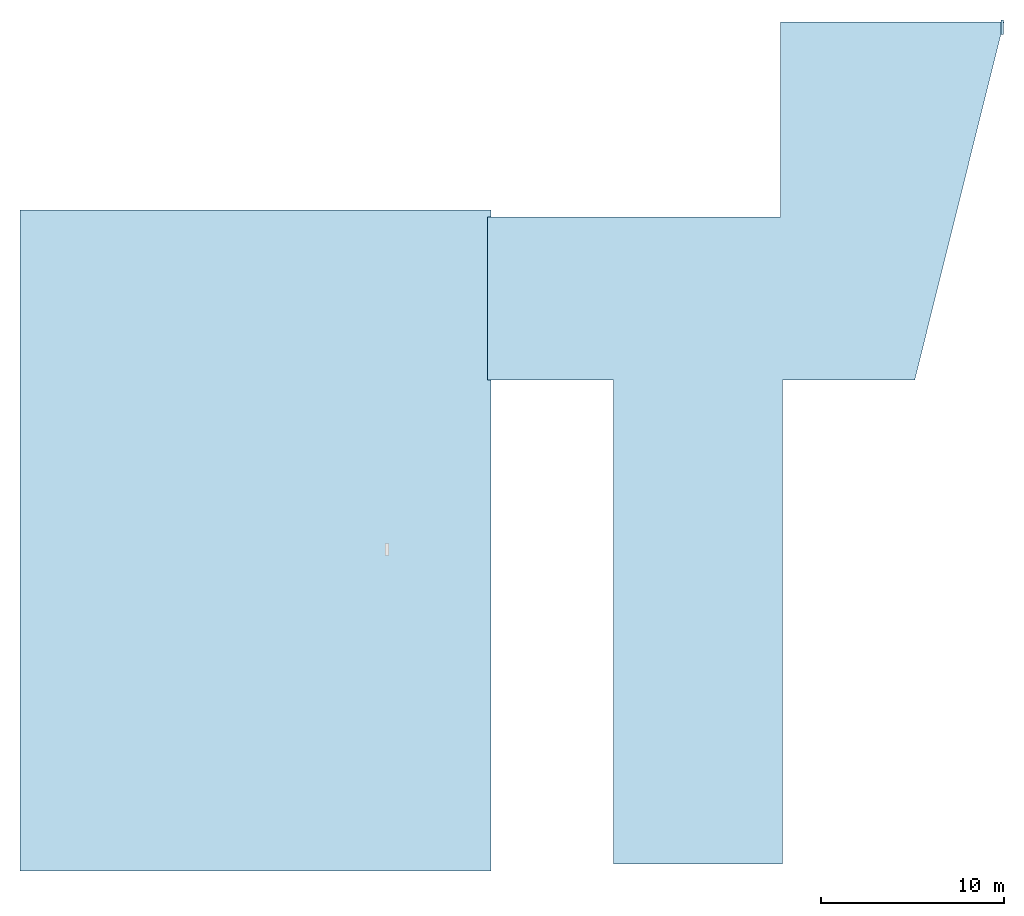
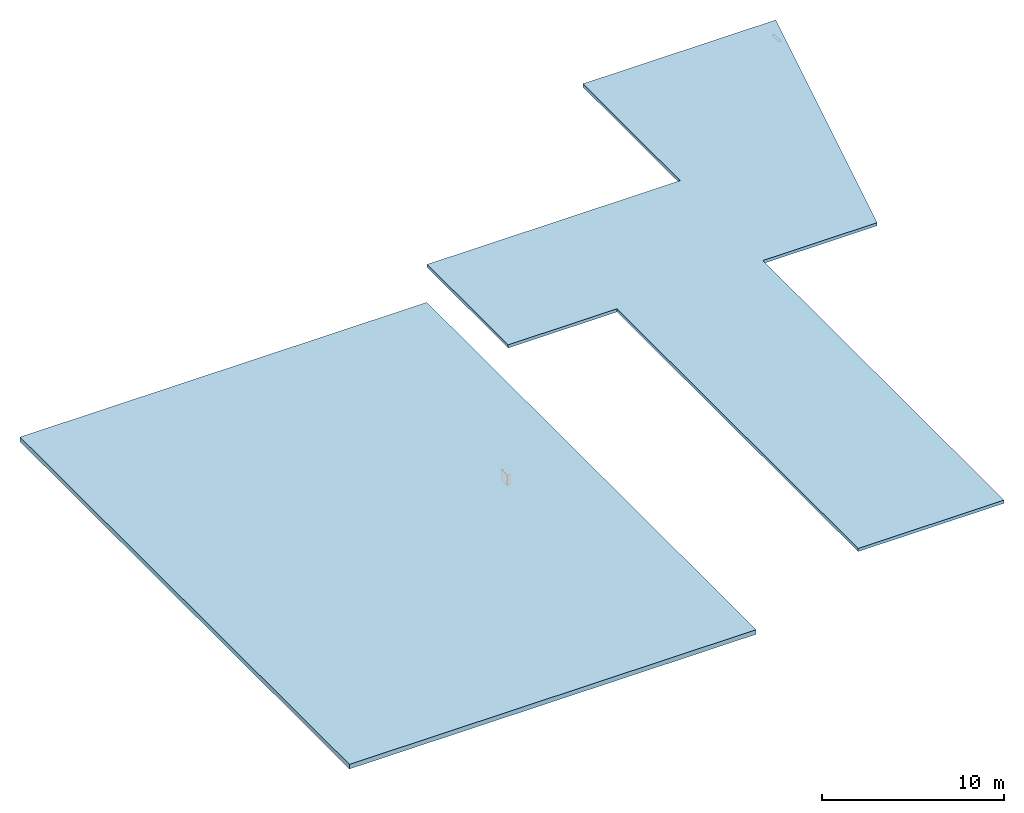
# One storey, part 1 of 2: 3 slabs.
"""IFC2X3 building model written with IfcOpenShell, lengths in millimetres."""

from ifc_helpers import new_model, entity, si_unit, converted_unit, derived_unit, money_unit, direction, frame, origin_with_axes, place, context, subcontext, project, spatial, polyline, outline, extrude, material, layer, layer_set, layer_usage, type_object, element, save


model = new_model("IFC2X3")

# Units and contexts
model_context = context("Model", 3, precision=0.01, world=origin_with_axes(), true_north=direction((0.0, 1.0)))
body_context = subcontext(model_context, "Body", "Model", "MODEL_VIEW")
ifc_project = project(units=[si_unit("LENGTHUNIT", "METRE", prefix="MILLI"), si_unit("AREAUNIT", "SQUARE_METRE"), si_unit("VOLUMEUNIT", "CUBIC_METRE"), converted_unit("PLANEANGLEUNIT", "DEGREE", entity("IfcPlaneAngleMeasure", 0.0174532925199), si_unit("PLANEANGLEUNIT", "RADIAN"), dimensions=[0, 0, 0, 0, 0, 0, 0]), money_unit("USD"), converted_unit("TIMEUNIT", "Year", entity("IfcTimeMeasure", 31556926.0), si_unit("TIMEUNIT", "SECOND"), dimensions=[0, 0, 1, 0, 0, 0, 0]), si_unit("MASSUNIT", "GRAM", prefix="KILO"), si_unit("THERMODYNAMICTEMPERATUREUNIT", "DEGREE_CELSIUS"), si_unit("LUMINOUSINTENSITYUNIT", "LUMEN"), si_unit("ENERGYUNIT", "JOULE", prefix="MEGA"), derived_unit("THERMALCONDUCTANCEUNIT", [(si_unit("POWERUNIT", "WATT"), 1), (si_unit("LENGTHUNIT", "METRE"), -1), (si_unit("THERMODYNAMICTEMPERATUREUNIT", "KELVIN"), -1)]), derived_unit("SPECIFICHEATCAPACITYUNIT", [(si_unit("ENERGYUNIT", "JOULE"), 1), (si_unit("MASSUNIT", "GRAM", prefix="KILO"), -1), (si_unit("THERMODYNAMICTEMPERATUREUNIT", "KELVIN"), -1)]), derived_unit("MASSDENSITYUNIT", [(si_unit("MASSUNIT", "GRAM", prefix="KILO"), 1), (si_unit("VOLUMEUNIT", "CUBIC_METRE"), -1)])], contexts=[model_context])

# Site, building, storey
site_placement = place(None, frame((9669.71692459, 4224.13032188, 0.0), z_axis=(0.0, 0.0, 1.0), x_axis=(1.0, 0.0, 0.0)))
site = spatial("IfcSite", under=ifc_project, at=site_placement, Name="Exteriér", CompositionType="ELEMENT")
building_placement = place(site_placement, origin_with_axes())
building = spatial("IfcBuilding", under=site, at=building_placement, Name="Budova", CompositionType="ELEMENT")
storey_placement = place(building_placement, frame((0.0, 0.0, -3100.0), z_axis=(0.0, 0.0, 1.0), x_axis=(1.0, 0.0, 0.0)))
storey = spatial("IfcBuildingStorey", under=building, at=storey_placement, Name="1.PP", CompositionType="ELEMENT", Elevation=-3100.0)

# Slabs
ifc_material_1 = material(Name="Zemina - původní")
ifc_layer_1 = layer(ifc_material_1, 1.0, ventilated="UNKNOWN")
ifc_layer_set_1 = layer_set([ifc_layer_1], Name="Zemina - původní 1")
ifc_layer_usage_1 = layer_usage(ifc_layer_set_1, "AXIS3", "NEGATIVE", 1.0)
slab_type_1 = type_object("IfcSlabType", Name="Zemina - původní 1", PredefinedType="FLOOR")
slab_1_placement = place(storey_placement, frame((41059.3744792, 41139.0534133, 1790.0), z_axis=(0.0, 0.0, 1.0), x_axis=(1.0, 0.0, 0.0)))
element("IfcSlab", 1, at=slab_1_placement, inside=storey, type_object=slab_type_1, material=ifc_layer_usage_1, Name="Pomocné výkopy", PredefinedType="FLOOR", context=body_context, shape_type="SweptSolid", body=[
    extrude(outline(polyline([(0.0, 0.0), (147.459062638, 0.0), (147.459062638, 800.0), (0.0, 800.0), (0.0, 0.0)])), origin_with_axes(), (0.0, 0.0, 1.0), 1.0),
])
ifc_material_2 = material(Name="2x SBS asfaltový pás, AL vložka (HI, radon)")
ifc_layer_2 = layer(ifc_material_2, 8.0, ventilated="UNKNOWN")
ifc_material_3 = material(Name="Železobeton C 20/25")
ifc_layer_3 = layer(ifc_material_3, 300.0, ventilated="UNKNOWN")
ifc_layer_set_2 = layer_set([ifc_layer_2, ifc_layer_3], Name="Základová deska garáž")
ifc_layer_usage_2 = layer_usage(ifc_layer_set_2, "AXIS3", "NEGATIVE", 308.0)
slab_type_2 = type_object("IfcSlabType", Name="Základová deska garáž 308", PredefinedType="FLOOR")
slab_2_placement = place(storey_placement, frame((-12645.2628681, -4660.94736196, -63.0), z_axis=(0.0, 0.0, 1.0), x_axis=(1.0, 0.0, 0.0)))
element("IfcSlab", 2, at=slab_2_placement, inside=storey, type_object=slab_type_2, material=ifc_layer_usage_2, Name="D055", PredefinedType="FLOOR", context=body_context, shape_type="SweptSolid", body=[
    extrude(outline(polyline([(0.0, 0.0), (25800.0002903, 2.52438070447e-08), (25800.0002903, 36199.9998612), (0.0, 36199.9998612), (0.0, 0.0)])), frame((0.0, 0.0, -308.0), z_axis=(0.0, 0.0, 1.0), x_axis=(1.0, 0.0, 0.0)), (0.0, 0.0, 1.0), 308.0),
])
ifc_layer_4 = layer(ifc_material_2, 8.0, ventilated="UNKNOWN")
ifc_layer_5 = layer(ifc_material_3, 200.0, ventilated="UNKNOWN")
ifc_layer_set_3 = layer_set([ifc_layer_4, ifc_layer_5], Name="Základová deska 1.NP")
ifc_layer_usage_3 = layer_usage(ifc_layer_set_3, "AXIS3", "NEGATIVE", 208.0)
slab_type_3 = type_object("IfcSlabType", Name="Základová deska 1.NP 208", PredefinedType="FLOOR")
slab_3_placement = place(storey_placement, frame((12954.737132, 31139.0524992, 2798.0), z_axis=(0.0, 0.0, 1.0), x_axis=(1.0, 0.0, 0.0)))
element("IfcSlab", 3, at=slab_3_placement, inside=storey, type_object=slab_type_3, material=ifc_layer_usage_3, Name="D056", PredefinedType="FLOOR", context=body_context, shape_type="SweptSolid", body=[
    extrude(outline(polyline([(0.0, 0.0), (0.0, -8899.98437388), (6899.99999993, -8899.99386787), (6899.99999993, -35400.0), (16150.0, -35400.0), (16150.0, -8899.99999994), (23393.7317173, -8899.99999994), (28279.1182741, 10700.0000001), (16050.0, 10700.0000001), (16050.0, 5.12727638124e-08), (0.0, 0.0)])), frame((0.0, 0.0, -208.0), z_axis=(0.0, 0.0, 1.0), x_axis=(1.0, 0.0, 0.0)), (0.0, 0.0, 1.0), 208.0),
])

save(model, "model.ifc")
